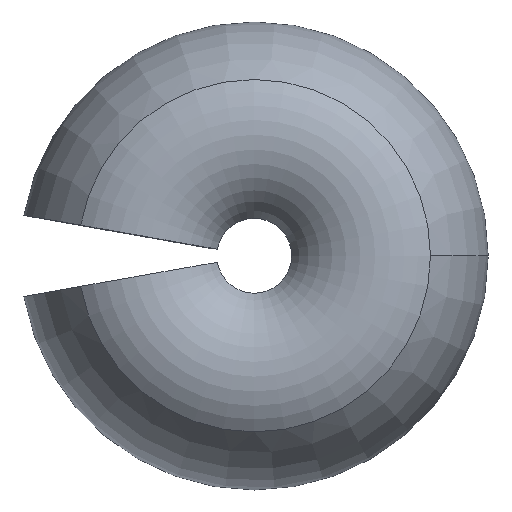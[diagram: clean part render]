
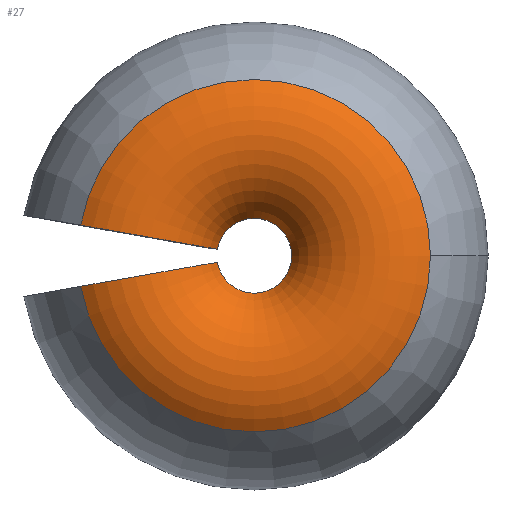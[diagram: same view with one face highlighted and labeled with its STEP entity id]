
A CAD part, top view. The second image highlights one B-rep face of the part: STEP entity #27.
In plain terms, the highlighted toroidal (fillet/blend) face has major radius 1705.64 mm and minor radius 1295 mm.
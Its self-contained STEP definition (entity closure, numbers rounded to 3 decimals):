
#12 = EDGE_CURVE ( 'NONE', #231, #375, #300, .T. ) ;
#27 = ADVANCED_FACE ( 'NONE', ( #85 ), #319, .T. ) ;
#30 = CARTESIAN_POINT ( 'NONE',  ( -2464.899, -434.628, 2993.192 ) ) ;
#32 = DIRECTION ( 'NONE',  ( 0., 0., 1. ) ) ;
#33 = EDGE_LOOP ( 'NONE', ( #373, #68, #393, #397, #159, #301 ) ) ;
#37 = DIRECTION ( 'NONE',  ( -0.174, 0.985, 0. ) ) ;
#39 = CARTESIAN_POINT ( 'NONE',  ( 531.973, 0., 2520.008 ) ) ;
#44 = DIRECTION ( 'NONE',  ( 0., 0., -1. ) ) ;
#49 = DIRECTION ( 'NONE',  ( -1., 0., 0. ) ) ;
#50 = VERTEX_POINT ( 'NONE', #30 ) ;
#64 = CARTESIAN_POINT ( 'NONE',  ( -523.892, 92.376, 2520.008 ) ) ;
#66 = CIRCLE ( 'NONE', #232, 2502.924 ) ;
#68 = ORIENTED_EDGE ( 'NONE', *, *, #12, .T. ) ;
#85 = FACE_OUTER_BOUND ( 'NONE', #33, .T. ) ;
#106 = CARTESIAN_POINT ( 'NONE',  ( -523.892, -92.376, 2520.008 ) ) ;
#109 = CIRCLE ( 'NONE', #402, 531.973 ) ;
#114 = CARTESIAN_POINT ( 'NONE',  ( 0., 0., 2520.008 ) ) ;
#130 = CIRCLE ( 'NONE', #290, 2502.924 ) ;
#135 = VERTEX_POINT ( 'NONE', #379 ) ;
#159 = ORIENTED_EDGE ( 'NONE', *, *, #220, .F. ) ;
#183 = CIRCLE ( 'NONE', #422, 1295. ) ;
#184 = DIRECTION ( 'NONE',  ( -1., 0., 0. ) ) ;
#194 = AXIS2_PLACEMENT_3D ( 'NONE', #114, #44, #49 ) ;
#199 = CARTESIAN_POINT ( 'NONE',  ( 0., 0., 2993.192 ) ) ;
#204 = CARTESIAN_POINT ( 'NONE',  ( 0., 0., 2520.008 ) ) ;
#208 = VERTEX_POINT ( 'NONE', #64 ) ;
#220 = EDGE_CURVE ( 'NONE', #135, #399, #130, .T. ) ;
#222 = AXIS2_PLACEMENT_3D ( 'NONE', #251, #287, #184 ) ;
#231 = VERTEX_POINT ( 'NONE', #39 ) ;
#232 = AXIS2_PLACEMENT_3D ( 'NONE', #358, #390, #296 ) ;
#244 = CARTESIAN_POINT ( 'NONE',  ( 2502.924, 0., 2993.192 ) ) ;
#247 = CIRCLE ( 'NONE', #380, 1295. ) ;
#251 = CARTESIAN_POINT ( 'NONE',  ( 0., 0., 1972.718 ) ) ;
#257 = DIRECTION ( 'NONE',  ( -1., 0., 0. ) ) ;
#261 = DIRECTION ( 'NONE',  ( 0., 0., 1. ) ) ;
#271 = EDGE_CURVE ( 'NONE', #135, #208, #247, .T. ) ;
#273 = DIRECTION ( 'NONE',  ( -1., 0., 0. ) ) ;
#287 = DIRECTION ( 'NONE',  ( 0., 0., -1. ) ) ;
#288 = EDGE_CURVE ( 'NONE', #50, #375, #183, .T. ) ;
#290 = AXIS2_PLACEMENT_3D ( 'NONE', #199, #420, #257 ) ;
#296 = DIRECTION ( 'NONE',  ( -1., 0., 0. ) ) ;
#300 = CIRCLE ( 'NONE', #194, 531.973 ) ;
#301 = ORIENTED_EDGE ( 'NONE', *, *, #271, .T. ) ;
#316 = EDGE_CURVE ( 'NONE', #399, #50, #66, .T. ) ;
#319 = TOROIDAL_SURFACE ( 'NONE', #222, 1705.642, 1295. ) ;
#323 = DIRECTION ( 'NONE',  ( 0.174, 0.985, 0. ) ) ;
#327 = CARTESIAN_POINT ( 'NONE',  ( -1679.729, -296.182, 1972.718 ) ) ;
#334 = DIRECTION ( 'NONE',  ( 0., 0., -1. ) ) ;
#348 = EDGE_CURVE ( 'NONE', #208, #231, #109, .T. ) ;
#358 = CARTESIAN_POINT ( 'NONE',  ( 0., 0., 2993.192 ) ) ;
#373 = ORIENTED_EDGE ( 'NONE', *, *, #348, .T. ) ;
#375 = VERTEX_POINT ( 'NONE', #106 ) ;
#379 = CARTESIAN_POINT ( 'NONE',  ( -2464.899, 434.628, 2993.192 ) ) ;
#380 = AXIS2_PLACEMENT_3D ( 'NONE', #395, #323, #261 ) ;
#390 = DIRECTION ( 'NONE',  ( 0., 0., -1. ) ) ;
#393 = ORIENTED_EDGE ( 'NONE', *, *, #288, .F. ) ;
#395 = CARTESIAN_POINT ( 'NONE',  ( -1679.729, 296.182, 1972.718 ) ) ;
#397 = ORIENTED_EDGE ( 'NONE', *, *, #316, .F. ) ;
#399 = VERTEX_POINT ( 'NONE', #244 ) ;
#402 = AXIS2_PLACEMENT_3D ( 'NONE', #204, #334, #273 ) ;
#420 = DIRECTION ( 'NONE',  ( 0., 0., -1. ) ) ;
#422 = AXIS2_PLACEMENT_3D ( 'NONE', #327, #37, #32 ) ;
